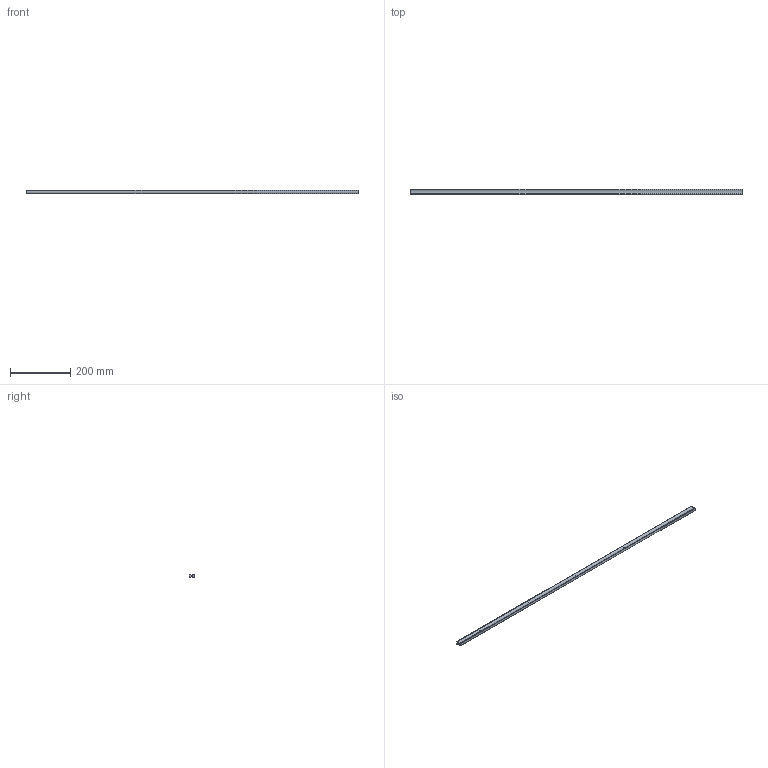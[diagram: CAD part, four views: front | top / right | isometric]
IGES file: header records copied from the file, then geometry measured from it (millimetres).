
Start section: Data from Parasolid IGES Translator 15.0.47, Copyright(c) 2006 Siemens P LM Software. All Rights Reserved.
Global section: file name: 9190440.igs; native system:  By UGS Corp.; preprocessor: XPlus GENERIC/IGES 3.0; author: Noname; organization: Noname; date: 20151216.182322; units: millimetre
Bounding box: 1100 x 17.96 x 10 mm (x, y, z)
Surface area: 60162 mm2 (no closed solid volume)
Topology: 0 solids, 0 shells, 23 faces, 96 edges, 88 vertices
Faces by surface type: revolution 15, extrusion 8
